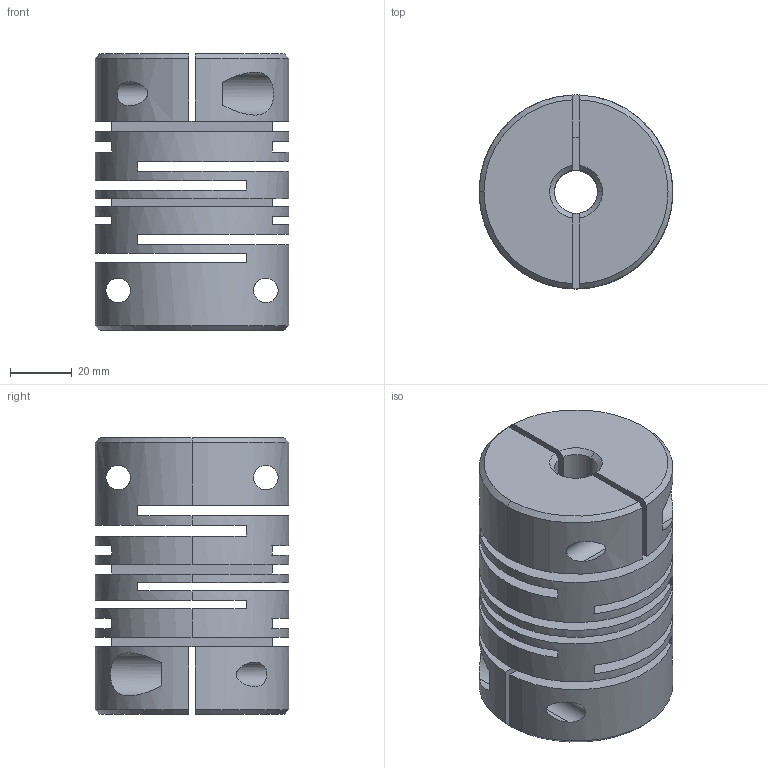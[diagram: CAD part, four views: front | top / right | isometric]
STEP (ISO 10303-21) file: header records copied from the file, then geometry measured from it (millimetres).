
FILE_DESCRIPTION (( 'STEP AP203' ), '1' );
FILE_NAME ('SFCS-63C.STEP', '2009-09-30T15:24:39', ( 'USER' ), ( 'HOME' ), 'SwSTEP 2.0', 'SolidWorks 2007', '' );
FILE_SCHEMA (( 'CONFIG_CONTROL_DESIGN' ));
Length unit declared in the file: millimetre
Products named in the file (1): SFCS-63C
Bounding box: 63 x 63 x 90 mm (x, y, z)
Volume: 188193.2 mm3; surface area: 70154 mm2
Topology: 1 solids, 1 shells, 108 faces, 302 edges, 200 vertices
Faces by surface type: cylinder 54, plane 44, cone 10
Entity records: 4181 total; most frequent: CARTESIAN_POINT 1199, DIRECTION 618, ORIENTED_EDGE 604, EDGE_CURVE 302, AXIS2_PLACEMENT_3D 243, VERTEX_POINT 200, EDGE_LOOP 142, CIRCLE 134
